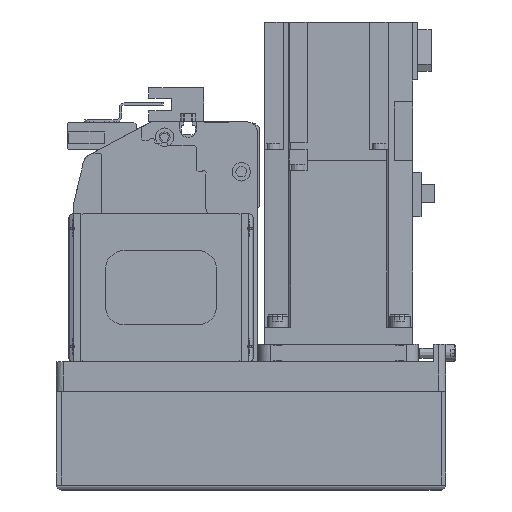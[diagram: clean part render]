
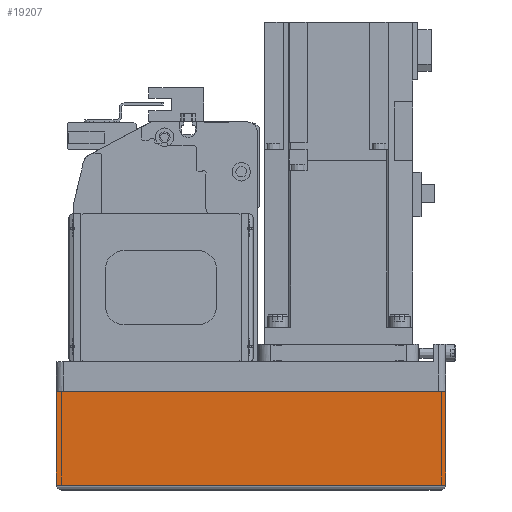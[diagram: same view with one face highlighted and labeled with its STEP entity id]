
A CAD part, left-side view. The second image highlights one B-rep face of the part: STEP entity #19207.
In plain terms, the highlighted planar face has unit normal (-1, 0, 0) as drawn and (0, 1, 0) by its records, which use the part's own axes.
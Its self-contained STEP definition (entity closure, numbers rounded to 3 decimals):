
#2970=ORIENTED_EDGE('',*,*,#7685,.F.);
#2971=ORIENTED_EDGE('',*,*,#7754,.F.);
#2972=ORIENTED_EDGE('',*,*,#7702,.T.);
#2973=ORIENTED_EDGE('',*,*,#7677,.T.);
#7677=EDGE_CURVE('',#10221,#10220,#12182,.T.);
#7685=EDGE_CURVE('',#10228,#10220,#12190,.T.);
#7702=EDGE_CURVE('',#10238,#10221,#12203,.T.);
#7754=EDGE_CURVE('',#10238,#10228,#12232,.T.);
#10220=VERTEX_POINT('',#29444);
#10221=VERTEX_POINT('',#29446);
#10228=VERTEX_POINT('',#29463);
#10238=VERTEX_POINT('',#29494);
#12182=LINE('',#29445,#13855);
#12190=LINE('',#29462,#13863);
#12203=LINE('',#29493,#13876);
#12232=LINE('',#29588,#13905);
#13855=VECTOR('',#23568,1000.);
#13863=VECTOR('',#23580,1000.);
#13876=VECTOR('',#23609,1000.);
#13905=VECTOR('',#23726,1000.);
#15405=EDGE_LOOP('',(#2970,#2971,#2972,#2973));
#17000=FACE_BOUND('',#15405,.T.);
#18424=PLANE('',#20608);
#19207=ADVANCED_FACE('',(#17000),#18424,.T.);
#20608=AXIS2_PLACEMENT_3D('',#29587,#23724,#23725);
#23568=DIRECTION('',(1.,0.,0.));
#23580=DIRECTION('',(0.,0.,1.));
#23609=DIRECTION('',(0.,0.,1.));
#23724=DIRECTION('',(0.,1.,0.));
#23725=DIRECTION('',(0.,0.,1.));
#23726=DIRECTION('',(1.,0.,0.));
#29444=CARTESIAN_POINT('',(0.,39.,-12.1));
#29445=CARTESIAN_POINT('',(-158.,39.,-12.1));
#29446=CARTESIAN_POINT('',(-158.,39.,-12.1));
#29462=CARTESIAN_POINT('',(0.,39.,-50.));
#29463=CARTESIAN_POINT('',(0.,39.,-50.));
#29493=CARTESIAN_POINT('',(-158.,39.,-50.));
#29494=CARTESIAN_POINT('',(-158.,39.,-50.));
#29587=CARTESIAN_POINT('',(-158.,39.,-50.));
#29588=CARTESIAN_POINT('',(-158.,39.,-50.));
